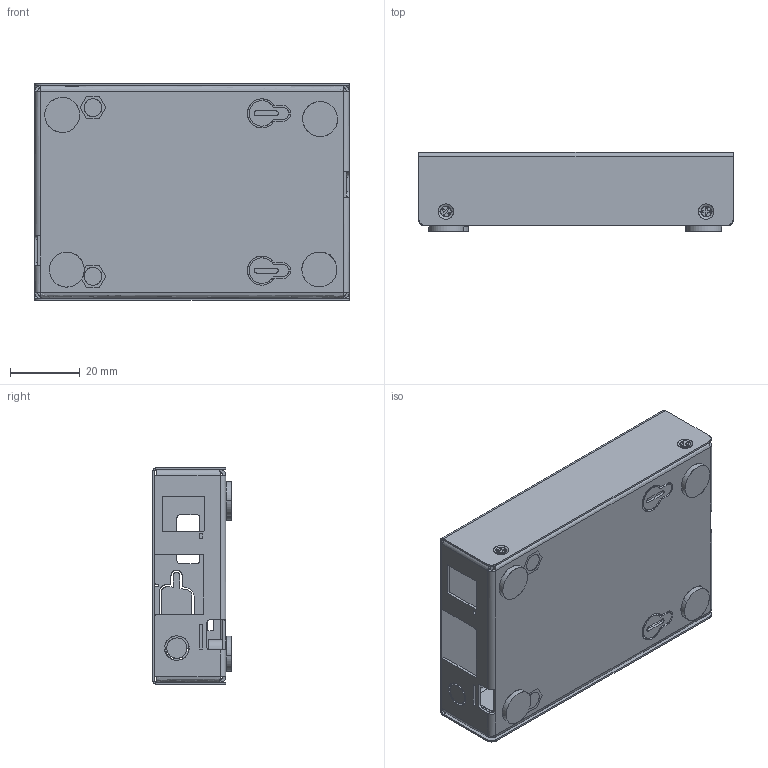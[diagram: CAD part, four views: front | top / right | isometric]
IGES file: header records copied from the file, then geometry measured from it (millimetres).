
Start section: SolidWorks IGES file using analytic representation for surfaces
Global section: file name: C:\Users\hans.brakeley\Desktop\Project Work\GIT\BB100\IGS\BB100.IGS; native system: SolidWorks 2013; preprocessor: SolidWorks 2013; author: hans.brakeley; date: 130710.140917; units: millimetre
Bounding box: 89.98 x 22.52 x 61.99 mm (x, y, z)
Surface area: 38966.2 mm2 (no closed solid volume)
Topology: 0 solids, 0 shells, 540 faces, 7264 edges, 7264 vertices
Faces by surface type: revolution 276, bspline 264
